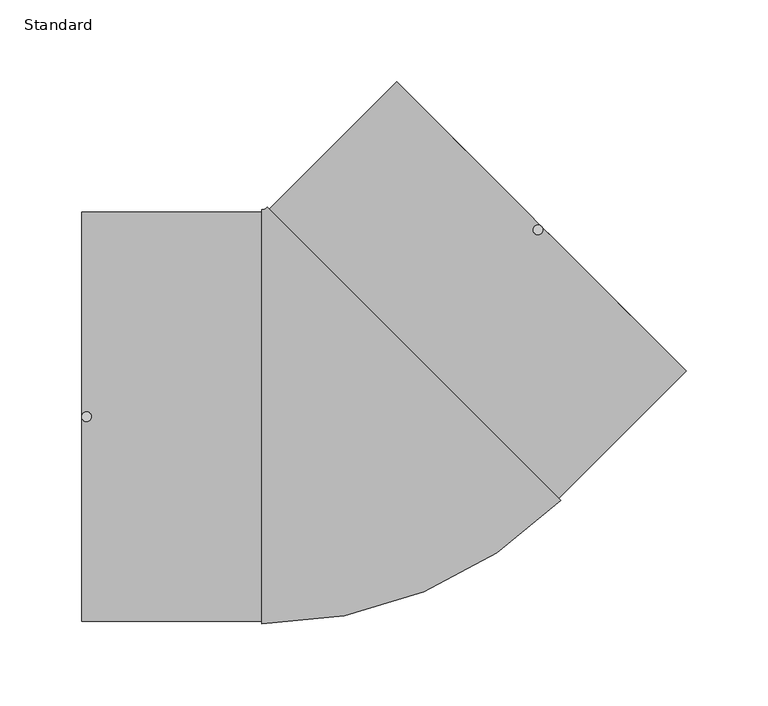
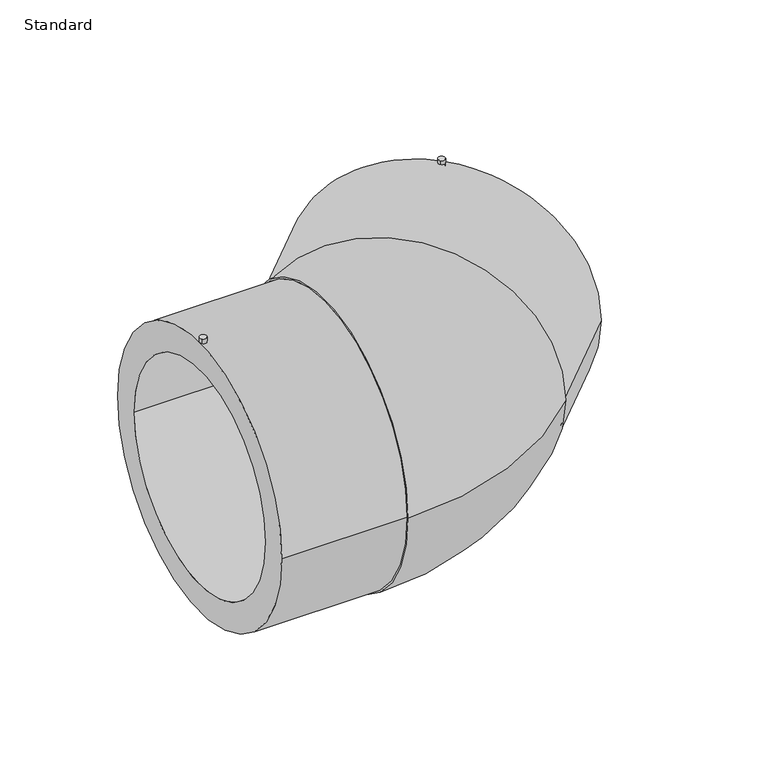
"""IFC4 building model written with IfcOpenShell, lengths in millimetres: pipe fitting geometry, EGB_VASEN_ PPR_Codo electrosoldable 90 WXRD200_Codo electrosoldable 45 WXRD220 : Standard."""

from ifc_helpers import new_model, si_unit, point, frame, frame_2d, origin, place, context, project, spatial, polyline, circle_curve, ellipse_curve, trimmed, segment, composite_curve, outline, extrude, source, transform, mapped, element, save
from ifc_brep_helpers import plane_surface, cylinder_surface, revolved_surface, advanced_brep


def standard_2777378c(model_context):
    return source(origin(), model_context, "Body", "SolidModel", [
        advanced_brep(
        [(-165.0, -125.5, 0.0), (-165.0, 125.5, 0.0), (-165.0, -100.0, 0.0), (-165.0, 100.0, 0.0), (-54.6051224, -125.5, 0.0), (-54.6051224, 125.5, 0.0), (-54.6051224, -100.0, 0.0), (-54.6051224, 100.0, 0.0), (-54.6051224, -127.0, 0.0), (-54.6051224, 127.0, 0.0), (128.4142136, -51.1909089, 0.0), (-51.1909089, 128.4142136, 0.0), (127.3535534, -50.1302487, 0.0), (-50.1302487, 127.3535534, 0.0), (109.3223305, -32.0990258, 0.0), (-32.0990258, 109.3223305, 0.0), (205.4145199, 27.9307179, 0.0), (27.9307179, 205.4145199, 0.0), (187.383297, 45.9619408, 0.0), (45.9619408, 187.383297, 0.0)],
        [
            (0, 1, circle_curve(frame((-165.0, 0.0, 0.0), z_axis=(-1.0, 0.0, 0.0), x_axis=(0.0, 1.0, 0.0)), 125.5)),
            (1, 0, circle_curve(frame((-165.0, 0.0, 0.0), z_axis=(-1.0, 0.0, 0.0), x_axis=(0.0, 1.0, 0.0)), 125.5)),
            (2, 3, circle_curve(frame((-165.0, 0.0, 0.0), z_axis=(1.0, 0.0, 0.0), x_axis=(0.0, 1.0, 0.0)), 100.0)),
            (3, 2, circle_curve(frame((-165.0, 0.0, 0.0), z_axis=(1.0, 0.0, 0.0), x_axis=(0.0, 1.0, 0.0)), 100.0)),
            (0, 4),
            (4, 5, circle_curve(frame((-54.6051224, 0.0, 0.0), z_axis=(-1.0, 0.0, 0.0), x_axis=(0.0, 1.0, 0.0)), 125.5)),
            (5, 1),
            (5, 4, circle_curve(frame((-54.6051224, 0.0, 0.0), z_axis=(-1.0, 0.0, 0.0), x_axis=(0.0, 1.0, 0.0)), 125.5)),
            (2, 6),
            (6, 7, circle_curve(frame((-54.6051224, 0.0, 0.0), z_axis=(1.0, 0.0, 0.0), x_axis=(0.0, 1.0, 0.0)), 100.0)),
            (7, 3),
            (7, 6, circle_curve(frame((-54.6051224, 0.0, 0.0), z_axis=(1.0, 0.0, 0.0), x_axis=(0.0, 1.0, 0.0)), 100.0)),
            (8, 9, circle_curve(frame((-54.6051224, 0.0, 0.0), z_axis=(-1.0, 0.0, 0.0), x_axis=(0.0, 1.0, 0.0)), 127.0)),
            (9, 8, circle_curve(frame((-54.6051224, 0.0, 0.0), z_axis=(-1.0, 0.0, 0.0), x_axis=(0.0, 1.0, 0.0)), 127.0)),
            (10, 11, circle_curve(frame((38.6116524, 38.6116524, 0.0), z_axis=(0.7071067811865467, 0.7071067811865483, 0.0), x_axis=(-0.7071067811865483, 0.7071067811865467, 0.0)), 127.0)),
            (11, 10, circle_curve(frame((38.6116524, 38.6116524, 0.0), z_axis=(0.7071067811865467, 0.7071067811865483, 0.0), x_axis=(-0.7071067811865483, 0.7071067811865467, 0.0)), 127.0)),
            (12, 13, circle_curve(frame((38.6116524, 38.6116524, 0.0), z_axis=(-0.7071067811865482, -0.7071067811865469, 0.0), x_axis=(-0.7071067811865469, 0.7071067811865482, 0.0)), 125.5)),
            (13, 12, circle_curve(frame((38.6116524, 38.6116524, 0.0), z_axis=(-0.7071067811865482, -0.7071067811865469, 0.0), x_axis=(-0.7071067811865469, 0.7071067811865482, 0.0)), 125.5)),
            (14, 15, circle_curve(frame((38.6116524, 38.6116524, 0.0), z_axis=(0.7071067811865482, 0.7071067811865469, 0.0), x_axis=(-0.7071067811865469, 0.7071067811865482, 0.0)), 100.0)),
            (15, 14, circle_curve(frame((38.6116524, 38.6116524, 0.0), z_axis=(0.7071067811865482, 0.7071067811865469, 0.0), x_axis=(-0.7071067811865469, 0.7071067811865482, 0.0)), 100.0)),
            (8, 10, circle_curve(frame((-54.6051224, 131.8284271, 0.0), z_axis=(0.0, 0.0, 1.0), x_axis=(0.0, -1.0, 0.0)), 258.8284271)),
            (11, 9, circle_curve(frame((-54.6051224, 131.8284271, 0.0), z_axis=(0.0, 0.0, -1.0), x_axis=(0.0, -1.0, 0.0)), 4.8284271)),
            (16, 17, circle_curve(frame((116.6726189, 116.6726189, 0.0), z_axis=(0.7071067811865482, 0.7071067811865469, 0.0), x_axis=(-0.7071067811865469, 0.7071067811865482, 0.0)), 125.5)),
            (17, 16, circle_curve(frame((116.6726189, 116.6726189, 0.0), z_axis=(0.7071067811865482, 0.7071067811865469, 0.0), x_axis=(-0.7071067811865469, 0.7071067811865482, 0.0)), 125.5)),
            (18, 19, circle_curve(frame((116.6726189, 116.6726189, 0.0), z_axis=(-0.7071067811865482, -0.7071067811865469, 0.0), x_axis=(-0.7071067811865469, 0.7071067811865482, 0.0)), 100.0)),
            (19, 18, circle_curve(frame((116.6726189, 116.6726189, 0.0), z_axis=(-0.7071067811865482, -0.7071067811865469, 0.0), x_axis=(-0.7071067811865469, 0.7071067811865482, 0.0)), 100.0)),
            (17, 13),
            (12, 16),
            (19, 15),
            (14, 18),
        ],
        [
            plane_surface(frame((-165.0, 0.0, 0.0), z_axis=(-1.0, 0.0, 0.0), x_axis=(0.0, 0.0, 1.0))),
            cylinder_surface(frame((-165.0, 0.0, 0.0), z_axis=(-1.0, 0.0, 0.0), x_axis=(0.0, 1.0, 0.0)), 125.5),
            revolved_surface(polyline([(-54.6051224, 100.0, 0.0), (-165.0, 100.0, 0.0)]), (-165.0, 0.0, 0.0), (1.0, 0.0, 0.0)),
            plane_surface(frame((-54.6051224, 0.0, 0.0), z_axis=(-1.0, 0.0, 0.0), x_axis=(0.0, 0.0, 1.0))),
            plane_surface(frame((38.6116524, 38.6116524, 0.0), z_axis=(0.7071067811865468, 0.7071067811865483, 0.0), x_axis=(0.0, 0.0, 1.0))),
            revolved_surface(trimmed(ellipse_curve(frame((-54.6051224, 0.0, 0.0), z_axis=(-1.0, 0.0, 0.0), x_axis=(0.0, 1.0, 0.0)), 127.0, 127.0), [point((-54.6051224, -127.0, 0.0))], [point((-54.6051224, 127.0, 0.0))], True, "CARTESIAN"), (-54.6051224, 131.8284271, 0.0), (0.0, 0.0, 1.0)),
            revolved_surface(trimmed(ellipse_curve(frame((-54.6051224, 0.0, 0.0), z_axis=(-1.0, 0.0, 0.0), x_axis=(0.0, 1.0, 0.0)), 127.0, 127.0), [point((-54.6051224, 127.0, 0.0))], [point((-54.6051224, -127.0, 0.0))], True, "CARTESIAN"), (-54.6051224, 131.8284271, 0.0), (0.0, 0.0, 1.0)),
            plane_surface(frame((116.6726189, 116.6726189, 0.0), z_axis=(0.7071067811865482, 0.7071067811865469, 0.0), x_axis=(0.0, 0.0, 1.0))),
            cylinder_surface(frame((38.6116524, 38.6116524, 0.0), z_axis=(-0.7071067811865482, -0.7071067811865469, 0.0), x_axis=(-0.7071067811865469, 0.7071067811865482, 0.0)), 125.5),
            revolved_surface(polyline([(45.96194078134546, 187.38329701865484, 0.0), (-32.09902576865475, 109.32233046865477, 0.0)]), (38.6116524, 38.6116524, 0.0), (0.7071067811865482, 0.7071067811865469, 0.0)),
        ],
        [
            (0, [[1, 2], [3, 4]]),
            (1, [[-1, 5, 6, 7]]),
            (1, [[-2, -7, 8, -5]]),
            (2, [[-3, 9, 10, 11]]),
            (2, [[-4, -11, 12, -9]]),
            (3, [[-10, -12]]),
            (3, [[13, 14], [-6, -8]]),
            (4, [[15, 16], [17, 18]]),
            (4, [[19, 20]]),
            (5, [[-13, 21, -16, 22]]),
            (6, [[-14, -22, -15, -21]]),
            (7, [[23, 24], [25, 26]]),
            (8, [[-24, 27, -17, 28]]),
            (8, [[-23, -28, -18, -27]]),
            (9, [[-26, 29, -19, 30]]),
            (9, [[-25, -30, -20, -29]]),
        ],
    ),
        extrude(outline(composite_curve([segment(trimmed(circle_curve(frame_2d((114.5512986, 114.5512986)), 3.0), [point((112.4299782, 112.4299782))], [point((116.6726189, 116.6726189))], False, "CARTESIAN"), True, "CONTINUOUS"), segment(trimmed(circle_curve(frame_2d((114.5512986, 114.5512986)), 3.0), [point((116.6726189, 116.6726189))], [point((112.4299782, 112.4299782))], False, "CARTESIAN"), True, "CONTINUOUS")], self_intersect=False)), frame((0.0, 0.0, 101.0), z_axis=(0.0, 0.0, 1.0), x_axis=(1.0, 0.0, 0.0)), (0.0, 0.0, 1.0), 29.0),
        extrude(outline(composite_curve([segment(trimmed(circle_curve(frame_2d((-162.0, 0.0)), 3.0), [point((-164.1213203, -2.1213203))], [point((-159.8786797, 2.1213203))], False, "CARTESIAN"), True, "CONTINUOUS"), segment(trimmed(circle_curve(frame_2d((-162.0, 0.0)), 3.0), [point((-159.8786797, 2.1213203))], [point((-164.1213203, -2.1213203))], False, "CARTESIAN"), True, "CONTINUOUS")], self_intersect=False)), frame((0.0, 0.0, 101.0), z_axis=(0.0, 0.0, 1.0), x_axis=(1.0, 0.0, 0.0)), (0.0, 0.0, 1.0), 29.0),
    ])


if __name__ == "__main__":
    model = new_model("IFC4")
    model_context = context("Model", 3, world=origin())
    ifc_project = project(units=[si_unit("LENGTHUNIT", "METRE", prefix="MILLI")], contexts=[model_context])
    site = spatial("IfcSite", under=ifc_project)
    building = spatial("IfcBuilding", under=site)
    placement = place(None, origin())
    standard_shape = standard_2777378c(model_context)
    element("IfcPipeFitting", 1, ObjectType="EGB_VASEN_ PPR_Codo electrosoldable 90 WXRD200_Codo electrosoldable 45 WXRD220 : Standard", at=placement, inside=building, context=model_context, shape_type="MappedRepresentation", body=[
        mapped(standard_shape, transform((0.0, 0.0, 0.0), x_axis=(1.0, 0.0, 0.0), y_axis=(0.0, 1.0, 0.0), z_axis=(0.0, 0.0, 1.0))),
    ])
    save(model, "model.ifc")
